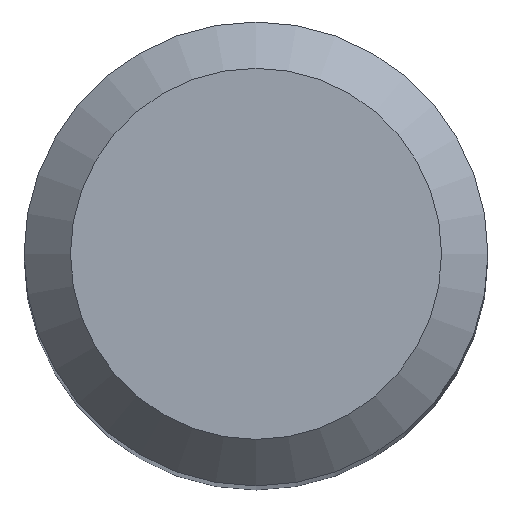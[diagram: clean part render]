
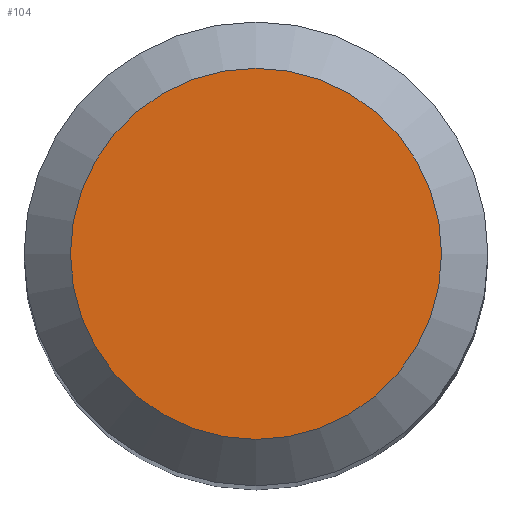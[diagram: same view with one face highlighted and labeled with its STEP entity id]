
A CAD part, top view. The second image highlights one B-rep face of the part: STEP entity #104.
In plain terms, the highlighted planar face has unit normal (0, 0, 1).
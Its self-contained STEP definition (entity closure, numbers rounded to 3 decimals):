
#88=CARTESIAN_POINT('',(4.0,0.0,140.0));
#89=DIRECTION('',(0.0,0.0,1.0));
#90=DIRECTION('',(1.0,0.0,0.0));
#91=AXIS2_PLACEMENT_3D('',#88,#89,#90);
#92=PLANE('',#91);
#93=CARTESIAN_POINT('',(-4.0,0.0,140.0));
#94=VERTEX_POINT('',#93);
#95=CARTESIAN_POINT('',(0.0,0.0,140.0));
#96=DIRECTION('',(0.0,0.0,-1.0));
#97=DIRECTION('',(-1.0,0.0,0.0));
#98=AXIS2_PLACEMENT_3D('',#95,#96,#97);
#99=CIRCLE('',#98,4.0);
#100=EDGE_CURVE('',#94,#94,#99,.T.);
#101=ORIENTED_EDGE('',*,*,#100,.F.);
#102=EDGE_LOOP('',(#101));
#103=FACE_OUTER_BOUND('',#102,.T.);
#104=ADVANCED_FACE('',(#103),#92,.T.);
